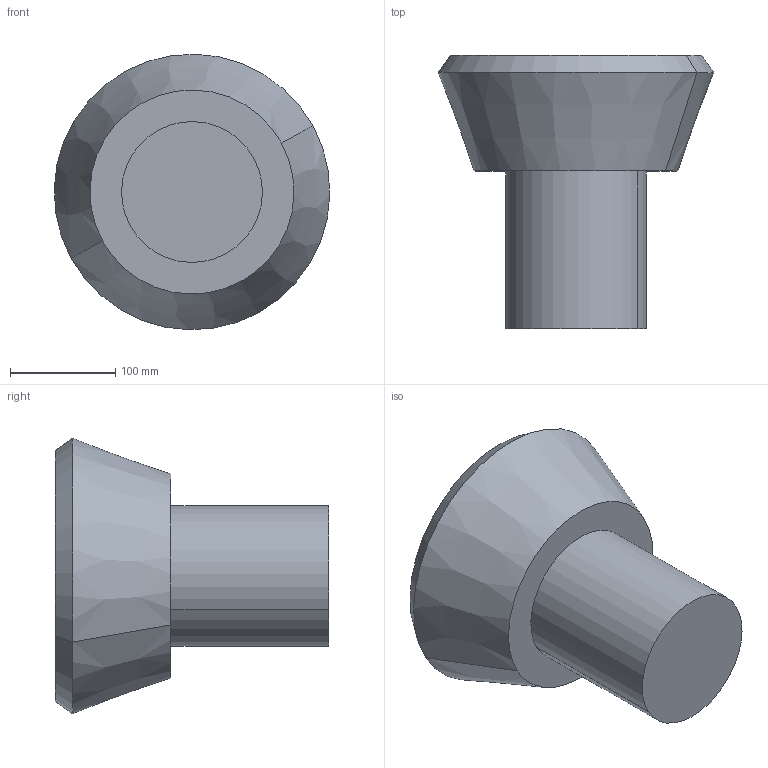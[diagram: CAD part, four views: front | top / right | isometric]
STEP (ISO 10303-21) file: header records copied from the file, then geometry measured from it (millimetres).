
FILE_DESCRIPTION(('CATIA V5 STEP Exchange'),'2;1');
FILE_NAME('C:\_Andres\UNIVERSIDAD\IQS\ASIGNATURAS\DAO\EXF\EXF-15161c\1original\Ferrer_Costa_Ej09-optimiza_v7.stp','2016-03-04T21:55:28+00:00',('none'),('none'),'CATIA Version 5 Release 20 SP 1 (IN-10)','CATIA V5 STEP AP203','none');
FILE_SCHEMA(('CONFIG_CONTROL_DESIGN'));
Length unit declared in the file: millimetre
Products named in the file (1): Ferrer_Costa_Ej09-optimiza_v7
Bounding box: 262.03 x 259.94 x 262.03 mm (x, y, z)
Volume: 6755515.2 mm3; surface area: 229109.4 mm2
Topology: 1 solids, 2 shells, 13 faces, 22 edges, 14 vertices
Faces by surface type: plane 5, cylinder 4, cone 4
Entity records: 324 total; most frequent: CARTESIAN_POINT 47, ORIENTED_EDGE 44, DIRECTION 42, AXIS2_PLACEMENT_3D 25, EDGE_CURVE 22, CIRCLE 14, EDGE_LOOP 14, VERTEX_POINT 14
